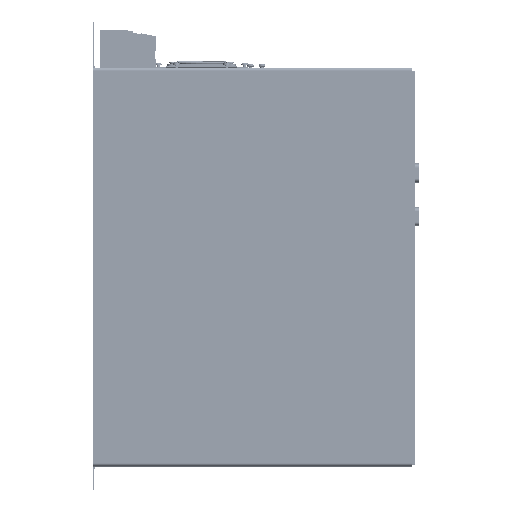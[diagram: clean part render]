
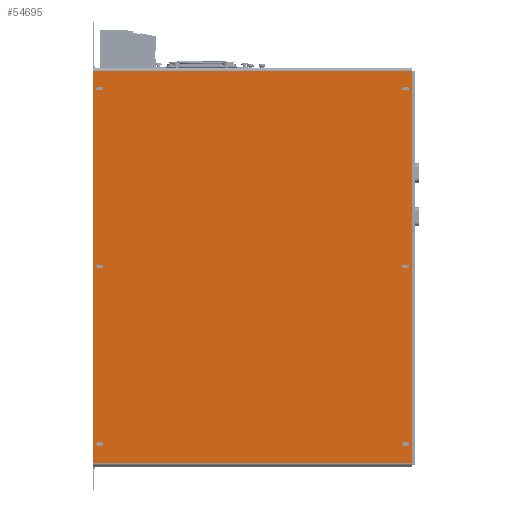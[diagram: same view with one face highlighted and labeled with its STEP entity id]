
A CAD part, left-side view. The second image highlights one B-rep face of the part: STEP entity #54695.
In plain terms, the highlighted planar face has unit normal (-1, 0, 0).
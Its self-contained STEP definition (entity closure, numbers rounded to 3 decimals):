
#53503=DIRECTION('',(0.,0.,1.));
#53504=VECTOR('',#53503,280.);
#53505=CARTESIAN_POINT('',(0.,-172.5,-140.));
#53506=LINE('',#53505,#53504);
#53734=DIRECTION('',(0.,-1.,0.));
#53735=VECTOR('',#53734,343.5);
#53736=CARTESIAN_POINT('',(0.,171.,-140.));
#53737=LINE('',#53736,#53735);
#53755=DIRECTION('',(0.,0.,1.));
#53756=VECTOR('',#53755,280.);
#53757=CARTESIAN_POINT('',(0.,171.,-140.));
#53758=LINE('',#53757,#53756);
#53762=DIRECTION('',(0.,0.,-1.));
#53763=VECTOR('',#53762,2.9);
#53764=CARTESIAN_POINT('',(0.,157.1,135.45));
#53765=LINE('',#53764,#53763);
#53769=CARTESIAN_POINT('',(0.,155.55,132.55));
#53770=DIRECTION('',(1.,0.,0.));
#53771=DIRECTION('',(0.,-1.,0.));
#53772=AXIS2_PLACEMENT_3D('',#53769,#53770,#53771);
#53777=DIRECTION('',(0.,0.,1.));
#53778=VECTOR('',#53777,2.9);
#53779=CARTESIAN_POINT('',(0.,154.,132.55));
#53780=LINE('',#53779,#53778);
#53784=CARTESIAN_POINT('',(0.,155.55,135.45));
#53785=DIRECTION('',(1.,0.,0.));
#53786=DIRECTION('',(0.,1.,0.));
#53787=AXIS2_PLACEMENT_3D('',#53784,#53785,#53786);
#53792=CARTESIAN_POINT('',(0.,155.55,-135.45));
#53793=DIRECTION('',(1.,0.,0.));
#53794=DIRECTION('',(0.,-1.,0.));
#53795=AXIS2_PLACEMENT_3D('',#53792,#53793,#53794);
#53800=DIRECTION('',(0.,0.,1.));
#53801=VECTOR('',#53800,2.9);
#53802=CARTESIAN_POINT('',(0.,154.,-135.45));
#53803=LINE('',#53802,#53801);
#53807=CARTESIAN_POINT('',(0.,155.55,-132.55));
#53808=DIRECTION('',(1.,0.,0.));
#53809=DIRECTION('',(0.,1.,0.));
#53810=AXIS2_PLACEMENT_3D('',#53807,#53808,#53809);
#53815=DIRECTION('',(0.,0.,-1.));
#53816=VECTOR('',#53815,2.9);
#53817=CARTESIAN_POINT('',(0.,157.1,-132.55));
#53818=LINE('',#53817,#53816);
#53822=CARTESIAN_POINT('',(0.,-155.55,135.45));
#53823=DIRECTION('',(1.,0.,0.));
#53824=DIRECTION('',(0.,1.,0.));
#53825=AXIS2_PLACEMENT_3D('',#53822,#53823,#53824);
#53830=DIRECTION('',(0.,0.,-1.));
#53831=VECTOR('',#53830,2.9);
#53832=CARTESIAN_POINT('',(0.,-154.,135.45));
#53833=LINE('',#53832,#53831);
#53837=CARTESIAN_POINT('',(0.,-155.55,132.55));
#53838=DIRECTION('',(1.,0.,0.));
#53839=DIRECTION('',(0.,-1.,0.));
#53840=AXIS2_PLACEMENT_3D('',#53837,#53838,#53839);
#53845=DIRECTION('',(0.,0.,1.));
#53846=VECTOR('',#53845,2.9);
#53847=CARTESIAN_POINT('',(0.,-157.1,132.55));
#53848=LINE('',#53847,#53846);
#53852=DIRECTION('',(0.,0.,1.));
#53853=VECTOR('',#53852,2.9);
#53854=CARTESIAN_POINT('',(0.,-157.1,-135.45));
#53855=LINE('',#53854,#53853);
#53859=CARTESIAN_POINT('',(0.,-155.55,-132.55));
#53860=DIRECTION('',(1.,0.,0.));
#53861=DIRECTION('',(0.,1.,0.));
#53862=AXIS2_PLACEMENT_3D('',#53859,#53860,#53861);
#53867=DIRECTION('',(0.,0.,-1.));
#53868=VECTOR('',#53867,2.9);
#53869=CARTESIAN_POINT('',(0.,-154.,-132.55));
#53870=LINE('',#53869,#53868);
#53874=CARTESIAN_POINT('',(0.,-155.55,-135.45));
#53875=DIRECTION('',(1.,0.,0.));
#53876=DIRECTION('',(0.,-1.,0.));
#53877=AXIS2_PLACEMENT_3D('',#53874,#53875,#53876);
#53882=DIRECTION('',(0.,0.,-1.));
#53883=VECTOR('',#53882,2.9);
#53884=CARTESIAN_POINT('',(0.,1.55,135.45));
#53885=LINE('',#53884,#53883);
#53889=CARTESIAN_POINT('',(0.,0.,132.55));
#53890=DIRECTION('',(1.,0.,0.));
#53891=DIRECTION('',(0.,-1.,0.));
#53892=AXIS2_PLACEMENT_3D('',#53889,#53890,#53891);
#53897=DIRECTION('',(0.,0.,1.));
#53898=VECTOR('',#53897,2.9);
#53899=CARTESIAN_POINT('',(0.,-1.55,132.55));
#53900=LINE('',#53899,#53898);
#53904=CARTESIAN_POINT('',(0.,0.,135.45));
#53905=DIRECTION('',(1.,0.,0.));
#53906=DIRECTION('',(0.,1.,0.));
#53907=AXIS2_PLACEMENT_3D('',#53904,#53905,#53906);
#53912=CARTESIAN_POINT('',(0.,0.,-135.45));
#53913=DIRECTION('',(1.,0.,0.));
#53914=DIRECTION('',(0.,-1.,0.));
#53915=AXIS2_PLACEMENT_3D('',#53912,#53913,#53914);
#53920=DIRECTION('',(0.,0.,1.));
#53921=VECTOR('',#53920,2.9);
#53922=CARTESIAN_POINT('',(0.,-1.55,-135.45));
#53923=LINE('',#53922,#53921);
#53927=CARTESIAN_POINT('',(0.,0.,-132.55));
#53928=DIRECTION('',(1.,0.,0.));
#53929=DIRECTION('',(0.,1.,0.));
#53930=AXIS2_PLACEMENT_3D('',#53927,#53928,#53929);
#53935=DIRECTION('',(0.,0.,-1.));
#53936=VECTOR('',#53935,2.9);
#53937=CARTESIAN_POINT('',(0.,1.55,-132.55));
#53938=LINE('',#53937,#53936);
#54065=DIRECTION('',(0.,-1.,0.));
#54066=VECTOR('',#54065,343.5);
#54067=CARTESIAN_POINT('',(0.,171.,140.));
#54068=LINE('',#54067,#54066);
#54258=CARTESIAN_POINT('',(0.,171.,-140.));
#54259=VERTEX_POINT('',#54258);
#54260=CARTESIAN_POINT('',(0.,-172.5,-140.));
#54261=VERTEX_POINT('',#54260);
#54270=CARTESIAN_POINT('',(0.,171.,140.));
#54271=VERTEX_POINT('',#54270);
#54272=CARTESIAN_POINT('',(0.,-172.5,140.));
#54273=VERTEX_POINT('',#54272);
#54302=CARTESIAN_POINT('',(0.,157.1,135.45));
#54303=CARTESIAN_POINT('',(0.,157.1,132.55));
#54304=VERTEX_POINT('',#54302);
#54305=VERTEX_POINT('',#54303);
#54306=CARTESIAN_POINT('',(0.,154.,132.55));
#54307=VERTEX_POINT('',#54306);
#54308=CARTESIAN_POINT('',(0.,154.,135.45));
#54309=VERTEX_POINT('',#54308);
#54310=CARTESIAN_POINT('',(0.,154.,-135.45));
#54311=CARTESIAN_POINT('',(0.,157.1,-135.45));
#54312=VERTEX_POINT('',#54310);
#54313=VERTEX_POINT('',#54311);
#54314=CARTESIAN_POINT('',(0.,154.,-132.55));
#54315=VERTEX_POINT('',#54314);
#54316=CARTESIAN_POINT('',(0.,157.1,-132.55));
#54317=VERTEX_POINT('',#54316);
#54318=CARTESIAN_POINT('',(0.,-154.,135.45));
#54319=CARTESIAN_POINT('',(0.,-157.1,135.45));
#54320=VERTEX_POINT('',#54318);
#54321=VERTEX_POINT('',#54319);
#54322=CARTESIAN_POINT('',(0.,-154.,132.55));
#54323=VERTEX_POINT('',#54322);
#54324=CARTESIAN_POINT('',(0.,-157.1,132.55));
#54325=VERTEX_POINT('',#54324);
#54326=CARTESIAN_POINT('',(0.,-157.1,-135.45));
#54327=CARTESIAN_POINT('',(0.,-157.1,-132.55));
#54328=VERTEX_POINT('',#54326);
#54329=VERTEX_POINT('',#54327);
#54330=CARTESIAN_POINT('',(0.,-154.,-132.55));
#54331=VERTEX_POINT('',#54330);
#54332=CARTESIAN_POINT('',(0.,-154.,-135.45));
#54333=VERTEX_POINT('',#54332);
#54334=CARTESIAN_POINT('',(0.,1.55,135.45));
#54335=CARTESIAN_POINT('',(0.,1.55,132.55));
#54336=VERTEX_POINT('',#54334);
#54337=VERTEX_POINT('',#54335);
#54338=CARTESIAN_POINT('',(0.,-1.55,132.55));
#54339=VERTEX_POINT('',#54338);
#54340=CARTESIAN_POINT('',(0.,-1.55,135.45));
#54341=VERTEX_POINT('',#54340);
#54342=CARTESIAN_POINT('',(0.,-1.55,-135.45));
#54343=CARTESIAN_POINT('',(0.,1.55,-135.45));
#54344=VERTEX_POINT('',#54342);
#54345=VERTEX_POINT('',#54343);
#54346=CARTESIAN_POINT('',(0.,-1.55,-132.55));
#54347=VERTEX_POINT('',#54346);
#54348=CARTESIAN_POINT('',(0.,1.55,-132.55));
#54349=VERTEX_POINT('',#54348);
#54622=CARTESIAN_POINT('',(0.,171.,-140.));
#54623=DIRECTION('',(-1.,0.,0.));
#54624=DIRECTION('',(0.,-1.,0.));
#54625=AXIS2_PLACEMENT_3D('',#54622,#54623,#54624);
#54626=PLANE('',#54625);
#54627=ORIENTED_EDGE('',*,*,#54613,.F.);
#54629=ORIENTED_EDGE('',*,*,#54628,.T.);
#54631=ORIENTED_EDGE('',*,*,#54630,.T.);
#54632=ORIENTED_EDGE('',*,*,#54479,.F.);
#54633=EDGE_LOOP('',(#54627,#54629,#54631,#54632));
#54634=FACE_OUTER_BOUND('',#54633,.F.);
#54636=ORIENTED_EDGE('',*,*,#54635,.T.);
#54638=ORIENTED_EDGE('',*,*,#54637,.F.);
#54640=ORIENTED_EDGE('',*,*,#54639,.T.);
#54642=ORIENTED_EDGE('',*,*,#54641,.F.);
#54643=EDGE_LOOP('',(#54636,#54638,#54640,#54642));
#54644=FACE_BOUND('',#54643,.F.);
#54646=ORIENTED_EDGE('',*,*,#54645,.F.);
#54648=ORIENTED_EDGE('',*,*,#54647,.T.);
#54650=ORIENTED_EDGE('',*,*,#54649,.F.);
#54652=ORIENTED_EDGE('',*,*,#54651,.T.);
#54653=EDGE_LOOP('',(#54646,#54648,#54650,#54652));
#54654=FACE_BOUND('',#54653,.F.);
#54656=ORIENTED_EDGE('',*,*,#54655,.F.);
#54658=ORIENTED_EDGE('',*,*,#54657,.T.);
#54660=ORIENTED_EDGE('',*,*,#54659,.F.);
#54662=ORIENTED_EDGE('',*,*,#54661,.T.);
#54663=EDGE_LOOP('',(#54656,#54658,#54660,#54662));
#54664=FACE_BOUND('',#54663,.F.);
#54666=ORIENTED_EDGE('',*,*,#54665,.T.);
#54668=ORIENTED_EDGE('',*,*,#54667,.F.);
#54670=ORIENTED_EDGE('',*,*,#54669,.T.);
#54672=ORIENTED_EDGE('',*,*,#54671,.F.);
#54673=EDGE_LOOP('',(#54666,#54668,#54670,#54672));
#54674=FACE_BOUND('',#54673,.F.);
#54676=ORIENTED_EDGE('',*,*,#54675,.T.);
#54678=ORIENTED_EDGE('',*,*,#54677,.F.);
#54680=ORIENTED_EDGE('',*,*,#54679,.T.);
#54682=ORIENTED_EDGE('',*,*,#54681,.F.);
#54683=EDGE_LOOP('',(#54676,#54678,#54680,#54682));
#54684=FACE_BOUND('',#54683,.F.);
#54686=ORIENTED_EDGE('',*,*,#54685,.F.);
#54688=ORIENTED_EDGE('',*,*,#54687,.T.);
#54690=ORIENTED_EDGE('',*,*,#54689,.F.);
#54692=ORIENTED_EDGE('',*,*,#54691,.T.);
#54693=EDGE_LOOP('',(#54686,#54688,#54690,#54692));
#54694=FACE_BOUND('',#54693,.F.);
#53773=CIRCLE('',#53772,1.55);
#53788=CIRCLE('',#53787,1.55);
#53796=CIRCLE('',#53795,1.55);
#53811=CIRCLE('',#53810,1.55);
#53826=CIRCLE('',#53825,1.55);
#53841=CIRCLE('',#53840,1.55);
#53863=CIRCLE('',#53862,1.55);
#53878=CIRCLE('',#53877,1.55);
#53893=CIRCLE('',#53892,1.55);
#53908=CIRCLE('',#53907,1.55);
#53916=CIRCLE('',#53915,1.55);
#53931=CIRCLE('',#53930,1.55);
#54479=EDGE_CURVE('',#54261,#54273,#53506,.T.);
#54613=EDGE_CURVE('',#54259,#54261,#53737,.T.);
#54628=EDGE_CURVE('',#54259,#54271,#53758,.T.);
#54630=EDGE_CURVE('',#54271,#54273,#54068,.T.);
#54635=EDGE_CURVE('',#54304,#54305,#53765,.T.);
#54637=EDGE_CURVE('',#54307,#54305,#53773,.T.);
#54639=EDGE_CURVE('',#54307,#54309,#53780,.T.);
#54641=EDGE_CURVE('',#54304,#54309,#53788,.T.);
#54645=EDGE_CURVE('',#54312,#54313,#53796,.T.);
#54647=EDGE_CURVE('',#54312,#54315,#53803,.T.);
#54649=EDGE_CURVE('',#54317,#54315,#53811,.T.);
#54651=EDGE_CURVE('',#54317,#54313,#53818,.T.);
#54655=EDGE_CURVE('',#54320,#54321,#53826,.T.);
#54657=EDGE_CURVE('',#54320,#54323,#53833,.T.);
#54659=EDGE_CURVE('',#54325,#54323,#53841,.T.);
#54661=EDGE_CURVE('',#54325,#54321,#53848,.T.);
#54665=EDGE_CURVE('',#54328,#54329,#53855,.T.);
#54667=EDGE_CURVE('',#54331,#54329,#53863,.T.);
#54669=EDGE_CURVE('',#54331,#54333,#53870,.T.);
#54671=EDGE_CURVE('',#54328,#54333,#53878,.T.);
#54675=EDGE_CURVE('',#54336,#54337,#53885,.T.);
#54677=EDGE_CURVE('',#54339,#54337,#53893,.T.);
#54679=EDGE_CURVE('',#54339,#54341,#53900,.T.);
#54681=EDGE_CURVE('',#54336,#54341,#53908,.T.);
#54685=EDGE_CURVE('',#54344,#54345,#53916,.T.);
#54687=EDGE_CURVE('',#54344,#54347,#53923,.T.);
#54689=EDGE_CURVE('',#54349,#54347,#53931,.T.);
#54691=EDGE_CURVE('',#54349,#54345,#53938,.T.);
#54695=ADVANCED_FACE('',(#54634,#54644,#54654,#54664,#54674,#54684,#54694),
#54626,.T.);
